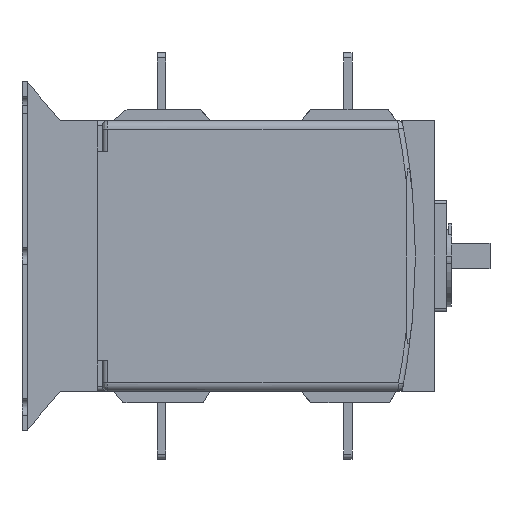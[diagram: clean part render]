
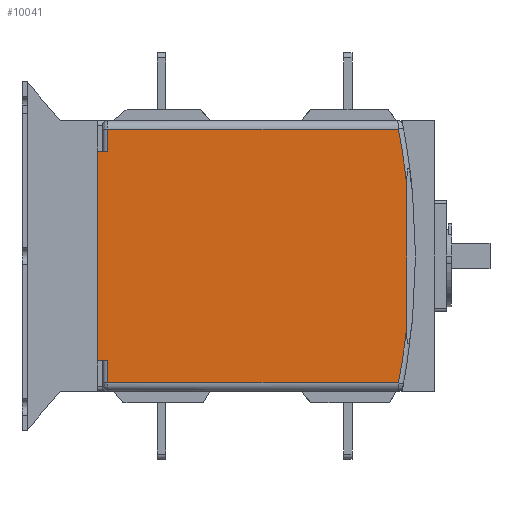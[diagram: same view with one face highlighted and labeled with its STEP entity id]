
A CAD part, left-side view. The second image highlights one B-rep face of the part: STEP entity #10041.
In plain terms, the highlighted planar face has unit normal (-1, 0, 0).
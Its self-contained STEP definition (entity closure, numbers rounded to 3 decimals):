
#268=DIRECTION('',(0.,0.,-1.));
#269=VECTOR('',#268,13.);
#270=CARTESIAN_POINT('',(-115.,-3.,-62.));
#271=LINE('',#270,#269);
#276=DIRECTION('',(0.,1.,0.));
#277=VECTOR('',#276,6.);
#278=CARTESIAN_POINT('',(-115.,-3.,-62.));
#279=LINE('',#278,#277);
#280=DIRECTION('',(0.,-1.,0.));
#281=VECTOR('',#280,6.);
#282=CARTESIAN_POINT('',(-115.,3.,62.));
#283=LINE('',#282,#281);
#284=CARTESIAN_POINT('',(-114.98,227.755,-1.181));
#285=DIRECTION('',(1.,0.,0.));
#286=DIRECTION('',(0.,-0.983,0.186));
#287=AXIS2_PLACEMENT_3D('',#284,#285,#286);
#289=DIRECTION('',(0.,0.,-1.));
#290=VECTOR('',#289,84.175);
#291=CARTESIAN_POINT('',(-115.,-179.77,42.088));
#292=LINE('',#291,#290);
#293=CARTESIAN_POINT('',(-114.983,228.152,1.238));
#294=DIRECTION('',(1.,0.,0.));
#295=DIRECTION('',(0.,-0.994,-0.106));
#296=AXIS2_PLACEMENT_3D('',#293,#294,#295);
#684=DIRECTION('',(0.,0.,-1.));
#685=VECTOR('',#684,13.);
#686=CARTESIAN_POINT('',(-115.,-3.,75.));
#687=LINE('',#686,#685);
#1878=DIRECTION('',(0.,-1.,0.));
#1879=VECTOR('',#1878,171.916);
#1880=CARTESIAN_POINT('',(-115.,-3.,-75.));
#1881=LINE('',#1880,#1879);
#2072=DIRECTION('',(0.,1.,0.));
#2073=VECTOR('',#2072,171.916);
#2074=CARTESIAN_POINT('',(-115.,-174.916,
75.));
#2075=LINE('',#2074,#2073);
#5740=DIRECTION('',(0.,0.,-1.));
#5741=VECTOR('',#5740,124.);
#5742=CARTESIAN_POINT('',(-115.,3.,62.));
#5743=LINE('',#5742,#5741);
#7636=CARTESIAN_POINT('',(-115.,-3.,-75.));
#7637=VERTEX_POINT('',#7636);
#7638=CARTESIAN_POINT('',(-115.,-3.,-62.));
#7639=VERTEX_POINT('',#7638);
#7640=CARTESIAN_POINT('',(-115.,3.,-62.));
#7641=VERTEX_POINT('',#7640);
#7642=CARTESIAN_POINT('',(-115.,3.,62.));
#7643=VERTEX_POINT('',#7642);
#7644=CARTESIAN_POINT('',(-115.,-3.,62.));
#7645=VERTEX_POINT('',#7644);
#7646=CARTESIAN_POINT('',(-115.,-3.,75.));
#7647=VERTEX_POINT('',#7646);
#7648=CARTESIAN_POINT('',(-115.,-174.916,
75.));
#7649=VERTEX_POINT('',#7648);
#7650=CARTESIAN_POINT('',(-115.,-179.768,
42.09));
#7651=VERTEX_POINT('',#7650);
#7652=CARTESIAN_POINT('',(-115.,-179.77,
-42.087));
#7653=VERTEX_POINT('',#7652);
#7654=CARTESIAN_POINT('',(-115.,-174.917,
-75.));
#7655=VERTEX_POINT('',#7654);
#10015=CARTESIAN_POINT('',(-115.,0.,-80.));
#10016=DIRECTION('',(-1.,0.,0.));
#10017=DIRECTION('',(0.,0.,1.));
#10018=AXIS2_PLACEMENT_3D('',#10015,#10016,#10017);
#10019=PLANE('',#10018);
#10020=ORIENTED_EDGE('',*,*,#10005,.F.);
#10022=ORIENTED_EDGE('',*,*,#10021,.T.);
#10024=ORIENTED_EDGE('',*,*,#10023,.F.);
#10026=ORIENTED_EDGE('',*,*,#10025,.T.);
#10028=ORIENTED_EDGE('',*,*,#10027,.F.);
#10030=ORIENTED_EDGE('',*,*,#10029,.F.);
#10032=ORIENTED_EDGE('',*,*,#10031,.T.);
#10034=ORIENTED_EDGE('',*,*,#10033,.T.);
#10036=ORIENTED_EDGE('',*,*,#10035,.T.);
#10038=ORIENTED_EDGE('',*,*,#10037,.F.);
#10039=EDGE_LOOP('',(#10020,#10022,#10024,#10026,#10028,#10030,#10032,#10034,
#10036,#10038));
#10040=FACE_OUTER_BOUND('',#10039,.F.);
#288=CIRCLE('',#287,409.814);
#297=CIRCLE('',#296,410.215);
#10005=EDGE_CURVE('',#7639,#7637,#271,.T.);
#10021=EDGE_CURVE('',#7639,#7641,#279,.T.);
#10023=EDGE_CURVE('',#7643,#7641,#5743,.T.);
#10025=EDGE_CURVE('',#7643,#7645,#283,.T.);
#10027=EDGE_CURVE('',#7647,#7645,#687,.T.);
#10029=EDGE_CURVE('',#7649,#7647,#2075,.T.);
#10031=EDGE_CURVE('',#7649,#7651,#288,.T.);
#10033=EDGE_CURVE('',#7651,#7653,#292,.T.);
#10035=EDGE_CURVE('',#7653,#7655,#297,.T.);
#10037=EDGE_CURVE('',#7637,#7655,#1881,.T.);
#10041=ADVANCED_FACE('',(#10040),#10019,.T.);
